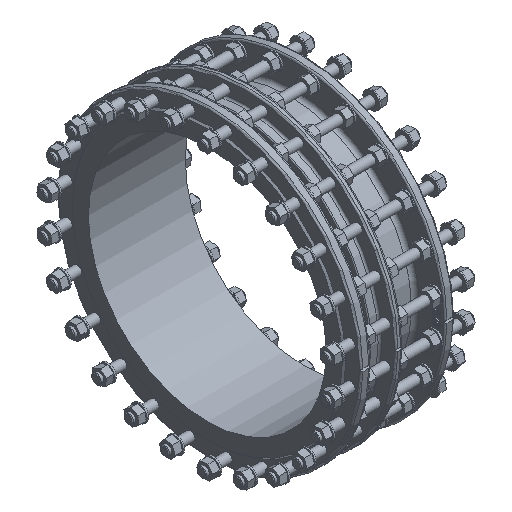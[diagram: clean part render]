
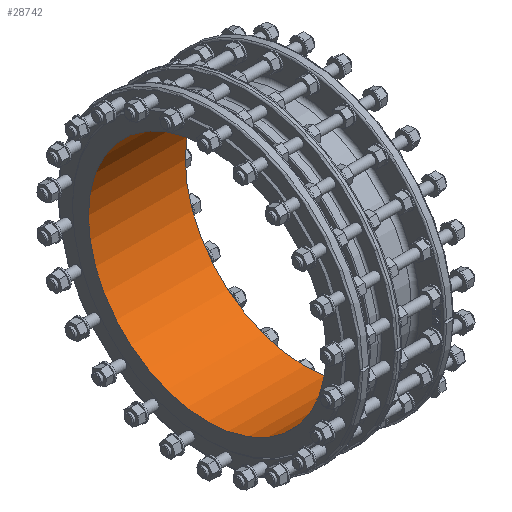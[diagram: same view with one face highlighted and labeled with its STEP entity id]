
A CAD part, isometric view. The second image highlights one B-rep face of the part: STEP entity #28742.
In plain terms, the highlighted cylindrical face has radius 350 mm (diameter 700 mm), a full revolution.
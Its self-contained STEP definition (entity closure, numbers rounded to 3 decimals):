
#2611 = DIRECTION ( 'NONE',  ( 0., 0., 1. ) ) ;
#3408 = AXIS2_PLACEMENT_3D ( 'NONE', #28022, #18236, #28428 ) ;
#5051 = AXIS2_PLACEMENT_3D ( 'NONE', #30924, #18432, #2611 ) ;
#5732 = FACE_OUTER_BOUND ( 'NONE', #7602, .T. ) ;
#7237 = CARTESIAN_POINT ( 'NONE',  ( -66., 0., 0. ) ) ;
#7602 = EDGE_LOOP ( 'NONE', ( #37968 ) ) ;
#9206 = EDGE_LOOP ( 'NONE', ( #20577 ) ) ;
#9459 = VERTEX_POINT ( 'NONE', #38834 ) ;
#10876 = AXIS2_PLACEMENT_3D ( 'NONE', #7237, #32845, #39726 ) ;
#14362 = CIRCLE ( 'NONE', #5051, 350. ) ;
#15663 = CARTESIAN_POINT ( 'NONE',  ( -66., 0., -350. ) ) ;
#18236 = DIRECTION ( 'NONE',  ( -1., 0., 0. ) ) ;
#18432 = DIRECTION ( 'NONE',  ( -1., 0., 0. ) ) ;
#18650 = CYLINDRICAL_SURFACE ( 'NONE', #3408, 350. ) ;
#20577 = ORIENTED_EDGE ( 'NONE', *, *, #23976, .F. ) ;
#23976 = EDGE_CURVE ( 'NONE', #9459, #9459, #14362, .T. ) ;
#28022 = CARTESIAN_POINT ( 'NONE',  ( 0., 0., 0. ) ) ;
#28428 = DIRECTION ( 'NONE',  ( 0., 0., 1. ) ) ;
#28742 = ADVANCED_FACE ( 'NONE', ( #36382, #5732 ), #18650, .F. ) ;
#30924 = CARTESIAN_POINT ( 'NONE',  ( 219., 0., 0. ) ) ;
#31491 = VERTEX_POINT ( 'NONE', #15663 ) ;
#32525 = EDGE_CURVE ( 'NONE', #31491, #31491, #38803, .T. ) ;
#32845 = DIRECTION ( 'NONE',  ( 1., 0., 0. ) ) ;
#36382 = FACE_OUTER_BOUND ( 'NONE', #9206, .T. ) ;
#37968 = ORIENTED_EDGE ( 'NONE', *, *, #32525, .F. ) ;
#38803 = CIRCLE ( 'NONE', #10876, 350. ) ;
#38834 = CARTESIAN_POINT ( 'NONE',  ( 219., 0., 350. ) ) ;
#39726 = DIRECTION ( 'NONE',  ( 0., 0., -1. ) ) ;
